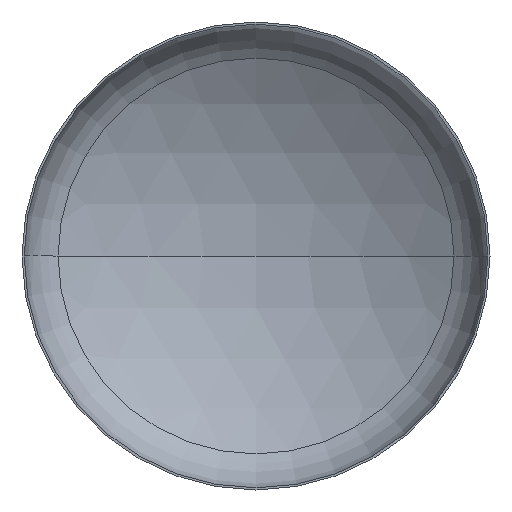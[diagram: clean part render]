
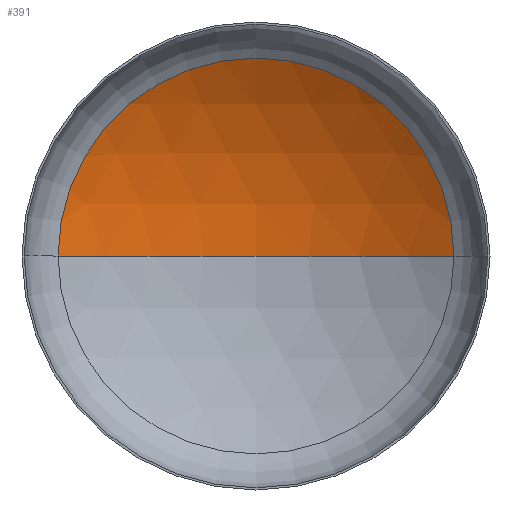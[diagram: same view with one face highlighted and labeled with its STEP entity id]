
A CAD part, front view. The second image highlights one B-rep face of the part: STEP entity #391.
In plain terms, the highlighted spherical face has radius 5200 mm.
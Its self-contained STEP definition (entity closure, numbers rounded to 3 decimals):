
#17 = DIRECTION ( 'NONE',  ( 1., 0., 0. ) ) ;
#18 = DIRECTION ( 'NONE',  ( 0., -1., 0. ) ) ;
#22 = ORIENTED_EDGE ( 'NONE', *, *, #197, .T. ) ;
#30 = CARTESIAN_POINT ( 'NONE',  ( -2748.571, 938.889, 0. ) ) ;
#34 = ORIENTED_EDGE ( 'NONE', *, *, #199, .T. ) ;
#44 = VERTEX_POINT ( 'NONE', #30 ) ;
#50 = VERTEX_POINT ( 'NONE', #367 ) ;
#58 = DIRECTION ( 'NONE',  ( -1., 0., 0. ) ) ;
#68 = AXIS2_PLACEMENT_3D ( 'NONE', #357, #192, #314 ) ;
#79 = ORIENTED_EDGE ( 'NONE', *, *, #201, .F. ) ;
#84 = AXIS2_PLACEMENT_3D ( 'NONE', #175, #203, #206 ) ;
#86 = AXIS2_PLACEMENT_3D ( 'NONE', #282, #410, #58 ) ;
#91 = AXIS2_PLACEMENT_3D ( 'NONE', #126, #18, #17 ) ;
#95 = CIRCLE ( 'NONE', #91, 2748.571 ) ;
#124 = EDGE_LOOP ( 'NONE', ( #79, #34, #22 ) ) ;
#126 = CARTESIAN_POINT ( 'NONE',  ( 0., 938.889, 0. ) ) ;
#152 = VERTEX_POINT ( 'NONE', #228 ) ;
#175 = CARTESIAN_POINT ( 'NONE',  ( 0., -3475.333, 0. ) ) ;
#192 = DIRECTION ( 'NONE',  ( 0., 0., -1. ) ) ;
#197 = EDGE_CURVE ( 'NONE', #152, #44, #95, .T. ) ;
#199 = EDGE_CURVE ( 'NONE', #50, #152, #392, .T. ) ;
#201 = EDGE_CURVE ( 'NONE', #50, #44, #276, .T. ) ;
#203 = DIRECTION ( 'NONE',  ( 0., 0., 1. ) ) ;
#206 = DIRECTION ( 'NONE',  ( 1., 0., 0. ) ) ;
#228 = CARTESIAN_POINT ( 'NONE',  ( 2748.571, 938.889, 0. ) ) ;
#232 = FACE_OUTER_BOUND ( 'NONE', #124, .T. ) ;
#276 = CIRCLE ( 'NONE', #84, 5200. ) ;
#282 = CARTESIAN_POINT ( 'NONE',  ( 0., -3475.333, 0. ) ) ;
#314 = DIRECTION ( 'NONE',  ( -1., 0., 0. ) ) ;
#357 = CARTESIAN_POINT ( 'NONE',  ( 0., -3475.333, 0. ) ) ;
#367 = CARTESIAN_POINT ( 'NONE',  ( 0., 1724.667, 0. ) ) ;
#391 = ADVANCED_FACE ( 'NONE', ( #232 ), #400, .F. ) ;
#392 = CIRCLE ( 'NONE', #86, 5200. ) ;
#400 = SPHERICAL_SURFACE ( 'NONE', #68, 5200. ) ;
#410 = DIRECTION ( 'NONE',  ( 0., 0., -1. ) ) ;
